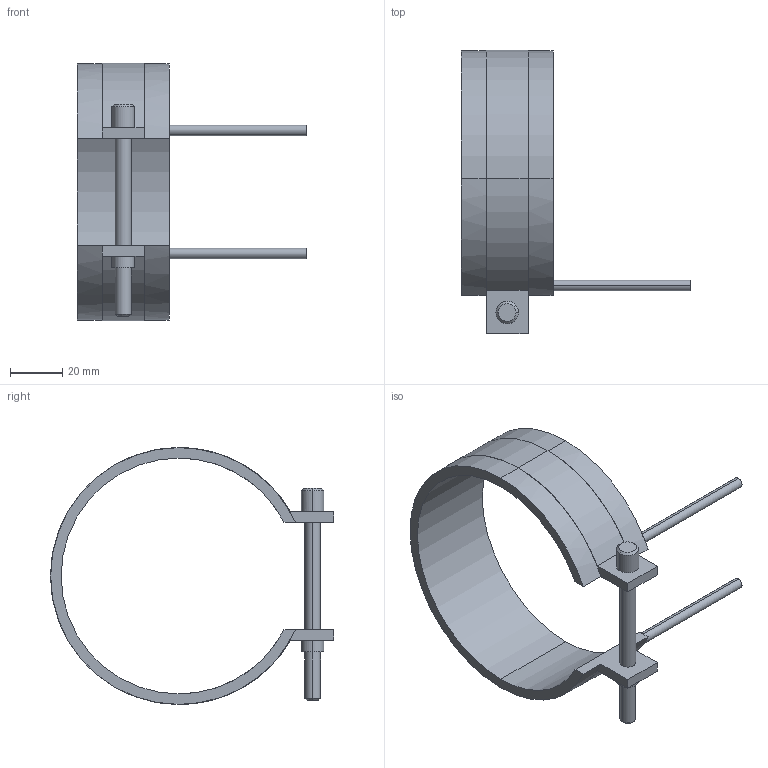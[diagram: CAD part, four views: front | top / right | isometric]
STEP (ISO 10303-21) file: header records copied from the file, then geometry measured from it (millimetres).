
FILE_DESCRIPTION(('CATIA V5 STEP Exchange'),'2;1');
FILE_NAME('C:\Users\Utente\Desktop\IO LAVORO\3D X SITO CF\X SITO\PLASTICA\RF2\14090035.stp','2021-04-06T16:11:33+00:00',('none'),('none'),'CATIA Version 5 Release 20 GA (IN-10)','CATIA V5 STEP AP203','none');
FILE_SCHEMA(('CONFIG_CONTROL_DESIGN'));
Length unit declared in the file: millimetre
Products named in the file (1): 14090035
Bounding box: 87.5 x 108.1 x 98.2 mm (x, y, z)
Volume: 41560.9 mm3; surface area: 24040.7 mm2
Topology: 1 solids, 1 shells, 45 faces, 116 edges, 76 vertices
Faces by surface type: cylinder 24, plane 17, cone 4
Entity records: 1412 total; most frequent: CARTESIAN_POINT 288, ORIENTED_EDGE 232, DIRECTION 195, EDGE_CURVE 116, AXIS2_PLACEMENT_3D 103, VERTEX_POINT 76, CIRCLE 61, VECTOR 52
